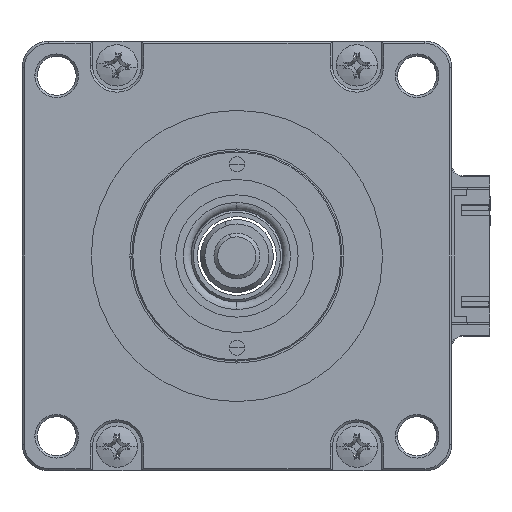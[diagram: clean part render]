
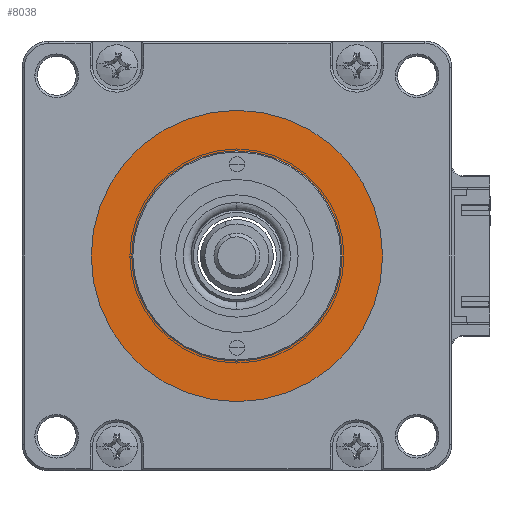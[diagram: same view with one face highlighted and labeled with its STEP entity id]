
A CAD part, left-side view. The second image highlights one B-rep face of the part: STEP entity #8038.
In plain terms, the highlighted planar face has unit normal (-1, 0, 0).
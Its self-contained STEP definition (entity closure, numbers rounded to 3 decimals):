
#218 = EDGE_LOOP ( 'NONE', ( #6103, #12552 ) ) ;
#946 = DIRECTION ( 'NONE',  ( -1., 0., 0. ) ) ;
#1315 = AXIS2_PLACEMENT_3D ( 'NONE', #3999, #10853, #4960 ) ;
#1326 = AXIS2_PLACEMENT_3D ( 'NONE', #6945, #946, #7922 ) ;
#1702 = AXIS2_PLACEMENT_3D ( 'NONE', #3899, #5853, #12672 ) ;
#1835 = VERTEX_POINT ( 'NONE', #3567 ) ;
#1861 = PLANE ( 'NONE',  #1702 ) ;
#2160 = CARTESIAN_POINT ( 'NONE',  ( -49.623, 4.472, 48.3 ) ) ;
#2647 = VERTEX_POINT ( 'NONE', #4274 ) ;
#2680 = EDGE_LOOP ( 'NONE', ( #12502, #4694 ) ) ;
#3176 = DIRECTION ( 'NONE',  ( 0., -1., 0. ) ) ;
#3567 = CARTESIAN_POINT ( 'NONE',  ( -49.623, -9.278, 48.3 ) ) ;
#3710 = EDGE_CURVE ( 'NONE', #2647, #1835, #12653, .T. ) ;
#3779 = CARTESIAN_POINT ( 'NONE',  ( -49.623, 4.472, 48.3 ) ) ;
#3899 = CARTESIAN_POINT ( 'NONE',  ( -49.623, 29.072, 72.9 ) ) ;
#3999 = CARTESIAN_POINT ( 'NONE',  ( -49.623, 4.472, 48.3 ) ) ;
#4274 = CARTESIAN_POINT ( 'NONE',  ( -49.623, 18.222, 48.3 ) ) ;
#4363 = CARTESIAN_POINT ( 'NONE',  ( -49.623, 23.522, 48.3 ) ) ;
#4664 = AXIS2_PLACEMENT_3D ( 'NONE', #2160, #9097, #3176 ) ;
#4694 = ORIENTED_EDGE ( 'NONE', *, *, #8593, .T. ) ;
#4754 = DIRECTION ( 'NONE',  ( 0., -1., 0. ) ) ;
#4960 = DIRECTION ( 'NONE',  ( 0., -1., 0. ) ) ;
#5140 = EDGE_CURVE ( 'NONE', #1835, #2647, #6382, .T. ) ;
#5853 = DIRECTION ( 'NONE',  ( -1., 0., 0. ) ) ;
#6103 = ORIENTED_EDGE ( 'NONE', *, *, #3710, .F. ) ;
#6156 = AXIS2_PLACEMENT_3D ( 'NONE', #3779, #10642, #4754 ) ;
#6382 = CIRCLE ( 'NONE', #1326, 13.75 ) ;
#6762 = CARTESIAN_POINT ( 'NONE',  ( -49.623, -14.578, 48.3 ) ) ;
#6945 = CARTESIAN_POINT ( 'NONE',  ( -49.623, 4.472, 48.3 ) ) ;
#7922 = DIRECTION ( 'NONE',  ( 0., -1., 0. ) ) ;
#8038 = ADVANCED_FACE ( 'NONE', ( #12412, #9274 ), #1861, .T. ) ;
#8333 = CIRCLE ( 'NONE', #4664, 19.05 ) ;
#8593 = EDGE_CURVE ( 'NONE', #10360, #12584, #11188, .T. ) ;
#9097 = DIRECTION ( 'NONE',  ( -1., 0., 0. ) ) ;
#9274 = FACE_OUTER_BOUND ( 'NONE', #2680, .T. ) ;
#10360 = VERTEX_POINT ( 'NONE', #4363 ) ;
#10642 = DIRECTION ( 'NONE',  ( -1., 0., 0. ) ) ;
#10853 = DIRECTION ( 'NONE',  ( -1., 0., 0. ) ) ;
#10930 = EDGE_CURVE ( 'NONE', #12584, #10360, #8333, .T. ) ;
#11188 = CIRCLE ( 'NONE', #1315, 19.05 ) ;
#12412 = FACE_BOUND ( 'NONE', #218, .T. ) ;
#12502 = ORIENTED_EDGE ( 'NONE', *, *, #10930, .T. ) ;
#12552 = ORIENTED_EDGE ( 'NONE', *, *, #5140, .F. ) ;
#12584 = VERTEX_POINT ( 'NONE', #6762 ) ;
#12653 = CIRCLE ( 'NONE', #6156, 13.75 ) ;
#12672 = DIRECTION ( 'NONE',  ( 0., -1., 0. ) ) ;
